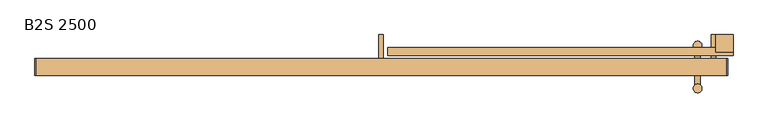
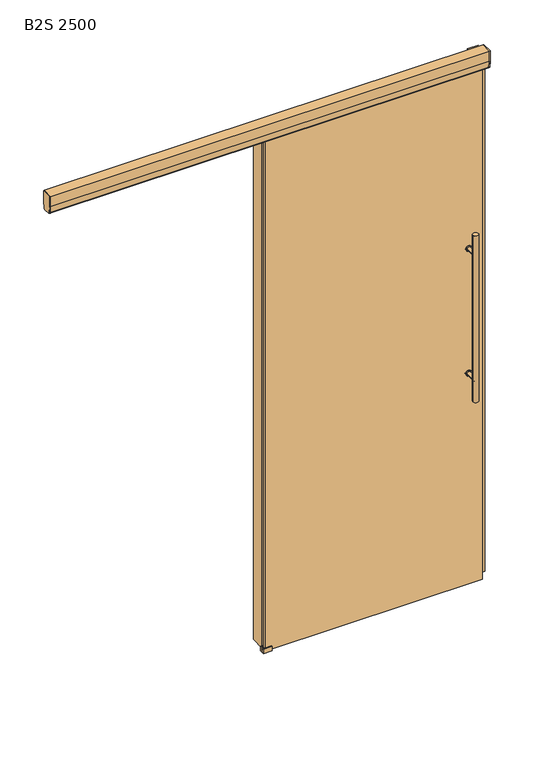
"""IFC4 building model written with IfcOpenShell, lengths in millimetres: door geometry, Mobiliário_Mobiliário de Escritório_Porta Simples de Correr - BS_Marelli : B2S 2500."""

from ifc_helpers import new_model, si_unit, point, frame, frame_2d, origin, origin_with_axes, place, context, project, spatial, polyline, circle_curve, trimmed, segment, composite_curve, outline, extrude, source, transform, mapped, element, save


def b2s_2500_bd1d7df3(model_context):
    return source(origin(), model_context, "Body", "SweptSolid", [
        extrude(outline(polyline([(823.1735443, -30.5), (835.8735443, -30.5), (835.8735443, -100.0), (823.1735443, -100.0), (823.1735443, -30.5)])), origin_with_axes(), (0.0, 0.0, 1.0), 2475.0),
        extrude(outline(polyline([(1798.5735443, -30.5), (1798.5735443, -100.0), (1785.8735443, -100.0), (1785.8735443, -30.5), (1798.5735443, -30.5)])), origin_with_axes(), (0.0, 0.0, 1.0), 2475.0),
        extrude(outline(polyline([(1808.5735443, -129.0), (818.5735443, -129.0), (818.5735443, -119.0), (1808.5735443, -119.0), (1808.5735443, -129.0)])), frame((0.0, 0.0, 4.5), z_axis=(0.0, 0.0, 1.0), x_axis=(1.0, 0.0, 0.0)), (0.0, 0.0, 1.0), 2495.5),
        extrude(outline(polyline([(1848.5735443, -30.5), (1848.5735443, -80.5), (1798.5735443, -80.5), (1798.5735443, -30.5), (1848.5735443, -30.5)])), origin_with_axes(), (0.0, 0.0, 1.0), 2500.0),
        extrude(outline(polyline([(-68.3, 2500.0), (-68.3, 2475.0), (-83.8, 2475.0), (-83.8, 2484.0), (-90.3, 2484.0), (-90.3, 2500.0), (-68.3, 2500.0)])), frame((848.5735443, 0.0, 0.0), z_axis=(1.0, 0.0, 0.0), x_axis=(0.0, 1.0, 0.0)), (0.0, 0.0, 1.0), 1000.0),
        extrude(outline(composite_curve([segment(polyline([(-148.0, 2550.0099534), (-100.0, 2550.0099534), (-100.0, 2500.0099534), (-103.3526316, 2470.2787193)]), True, "CONTINUOUS"), segment(trimmed(circle_curve(frame_2d((-109.9731658, 2471.7910743)), 6.7910743), [point((-103.3526316, 2470.2787193))], [point((-109.9731658, 2465.0))], False, "CARTESIAN"), True, "CONTINUOUS"), segment(polyline([(-109.9731658, 2465.0), (-138.0268342, 2465.0)]), True, "CONTINUOUS"), segment(trimmed(circle_curve(frame_2d((-138.0268342, 2471.7910743)), 6.7910743), [point((-138.0268342, 2465.0))], [point((-144.6473684, 2470.2787193))], False, "CARTESIAN"), True, "CONTINUOUS"), segment(polyline([(-144.6473684, 2470.2787193), (-148.0, 2500.0099534), (-148.0, 2550.0099534)]), True, "CONTINUOUS")], self_intersect=False)), frame((-172.4264557, 0.0, 0.0), z_axis=(1.0, 0.0, 0.0), x_axis=(0.0, 1.0, 0.0)), (0.0, 0.0, 1.0), 3.0),
        extrude(outline(composite_curve([segment(polyline([(-148.0, 2550.0), (-100.0, 2550.0), (-100.0, 2500.0), (-103.3526316, 2470.2687659)]), True, "CONTINUOUS"), segment(trimmed(circle_curve(frame_2d((-109.9731658, 2471.781121)), 6.7910743), [point((-103.3526316, 2470.2687659))], [point((-109.9731658, 2464.9900466))], False, "CARTESIAN"), True, "CONTINUOUS"), segment(polyline([(-109.9731658, 2464.9900466), (-138.0268342, 2464.9900466)]), True, "CONTINUOUS"), segment(trimmed(circle_curve(frame_2d((-138.0268342, 2471.781121)), 6.7910743), [point((-138.0268342, 2464.9900466))], [point((-144.6473684, 2470.2687659))], False, "CARTESIAN"), True, "CONTINUOUS"), segment(polyline([(-144.6473684, 2470.2687659), (-148.0, 2500.0), (-148.0, 2550.0)]), True, "CONTINUOUS")], self_intersect=False)), frame((1830.5735443, 0.0, 0.0), z_axis=(1.0, 0.0, 0.0), x_axis=(0.0, 1.0, 0.0)), (0.0, 0.0, 1.0), 3.0),
        extrude(outline(composite_curve([segment(polyline([(-148.0, 2550.0), (-100.0, 2550.0), (-100.0, 2500.0), (-103.3526316, 2470.2687659)]), True, "CONTINUOUS"), segment(trimmed(circle_curve(frame_2d((-109.9731658, 2471.781121)), 6.7910743), [point((-103.3526316, 2470.2687659))], [point((-109.9731658, 2464.9900466))], False, "CARTESIAN"), True, "CONTINUOUS"), segment(polyline([(-109.9731658, 2464.9900466), (-119.0, 2464.9900466), (-119.0, 2468.4900466), (-109.9731658, 2468.4900466)]), True, "CONTINUOUS"), segment(trimmed(circle_curve(frame_2d((-109.9731658, 2471.781121)), 3.2910743), [point((-109.9731658, 2468.4900466))], [point((-106.8045793, 2470.8916099))], True, "CARTESIAN"), True, "CONTINUOUS"), segment(polyline([(-106.8045793, 2470.8916099), (-103.5, 2500.1967147), (-103.5, 2546.5), (-144.5, 2546.5), (-144.5, 2500.1967147), (-141.1954207, 2470.8916099)]), True, "CONTINUOUS"), segment(trimmed(circle_curve(frame_2d((-138.0268342, 2471.781121)), 3.2910743), [point((-141.1954207, 2470.8916099))], [point((-138.0268342, 2468.4900466))], True, "CARTESIAN"), True, "CONTINUOUS"), segment(polyline([(-138.0268342, 2468.4900466), (-129.0, 2468.4900466), (-129.0, 2464.9900466), (-138.0268342, 2464.9900466)]), True, "CONTINUOUS"), segment(trimmed(circle_curve(frame_2d((-138.0268342, 2471.781121)), 6.7910743), [point((-138.0268342, 2464.9900466))], [point((-144.6473684, 2470.2687659))], False, "CARTESIAN"), True, "CONTINUOUS"), segment(polyline([(-144.6473684, 2470.2687659), (-148.0, 2500.0), (-148.0, 2550.0)]), True, "CONTINUOUS")], self_intersect=False)), frame((-169.4264557, 0.0, 0.0), z_axis=(1.0, 0.0, 0.0), x_axis=(0.0, 1.0, 0.0)), (0.0, 0.0, 1.0), 2000.0),
        extrude(outline(polyline([(-113.0, 22.0), (-113.0, 0.0), (-135.0, 0.0), (-135.0, 22.0), (-130.3, 22.0), (-129.5, 19.0), (-129.5, 4.5), (-118.5, 4.5), (-118.5, 19.0), (-117.7, 22.0), (-113.0, 22.0)])), frame((808.5735443, 0.0, 0.0), z_axis=(1.0, 0.0, 0.0), x_axis=(0.0, 1.0, 0.0)), (0.0, 0.0, 1.0), 40.0),
        extrude(outline(composite_curve([segment(trimmed(circle_curve(frame_2d((1020.0, 1745.6952124)), 12.7), [point((1020.0, 1732.9952124))], [point((1020.0, 1758.3952124))], False, "CARTESIAN"), True, "CONTINUOUS"), segment(trimmed(circle_curve(frame_2d((1020.0, 1745.6952124)), 12.7), [point((1020.0, 1758.3952124))], [point((1020.0, 1732.9952124))], False, "CARTESIAN"), True, "CONTINUOUS")], self_intersect=False)), frame((0.0, -133.0, 0.0), z_axis=(0.0, 1.0, 0.0), x_axis=(0.0, 0.0, 1.0)), (0.0, 0.0, 1.0), 18.0),
        extrude(outline(composite_curve([segment(trimmed(circle_curve(frame_2d((1620.0, 1745.6952124)), 12.7), [point((1620.0, 1732.9952124))], [point((1620.0, 1758.3952124))], False, "CARTESIAN"), True, "CONTINUOUS"), segment(trimmed(circle_curve(frame_2d((1620.0, 1745.6952124)), 12.7), [point((1620.0, 1758.3952124))], [point((1620.0, 1732.9952124))], False, "CARTESIAN"), True, "CONTINUOUS")], self_intersect=False)), frame((0.0, -133.0, 0.0), z_axis=(0.0, 1.0, 0.0), x_axis=(0.0, 0.0, 1.0)), (0.0, 0.0, 1.0), 18.0),
        extrude(outline(composite_curve([segment(trimmed(circle_curve(frame_2d((1020.0, 1745.6952124)), 8.0), [point((1020.0, 1737.6952124))], [point((1020.0, 1753.6952124))], False, "CARTESIAN"), True, "CONTINUOUS"), segment(trimmed(circle_curve(frame_2d((1020.0, 1745.6952124)), 8.0), [point((1020.0, 1753.6952124))], [point((1020.0, 1737.6952124))], False, "CARTESIAN"), True, "CONTINUOUS")], self_intersect=False)), frame((0.0, -186.2, 0.0), z_axis=(0.0, 1.0, 0.0), x_axis=(0.0, 0.0, 1.0)), (0.0, 0.0, 1.0), 124.4),
        extrude(outline(composite_curve([segment(trimmed(circle_curve(frame_2d((1620.0, 1745.6952124)), 8.0), [point((1620.0, 1737.6952124))], [point((1620.0, 1753.6952124))], False, "CARTESIAN"), True, "CONTINUOUS"), segment(trimmed(circle_curve(frame_2d((1620.0, 1745.6952124)), 8.0), [point((1620.0, 1753.6952124))], [point((1620.0, 1737.6952124))], False, "CARTESIAN"), True, "CONTINUOUS")], self_intersect=False)), frame((0.0, -186.2, 0.0), z_axis=(0.0, 1.0, 0.0), x_axis=(0.0, 0.0, 1.0)), (0.0, 0.0, 1.0), 124.4),
        extrude(outline(composite_curve([segment(trimmed(circle_curve(frame_2d((1745.6952124, -61.8)), 12.7), [point((1758.3952124, -61.8))], [point((1732.9952124, -61.8))], False, "CARTESIAN"), True, "CONTINUOUS"), segment(trimmed(circle_curve(frame_2d((1745.6952124, -61.8)), 12.7), [point((1732.9952124, -61.8))], [point((1758.3952124, -61.8))], False, "CARTESIAN"), True, "CONTINUOUS")], self_intersect=False)), frame((0.0, 0.0, 920.0), z_axis=(0.0, 0.0, 1.0), x_axis=(1.0, 0.0, 0.0)), (0.0, 0.0, 1.0), 800.0),
        extrude(outline(composite_curve([segment(trimmed(circle_curve(frame_2d((1745.6952124, -186.2)), 12.7), [point((1758.3952124, -186.2))], [point((1732.9952124, -186.2))], False, "CARTESIAN"), True, "CONTINUOUS"), segment(trimmed(circle_curve(frame_2d((1745.6952124, -186.2)), 12.7), [point((1732.9952124, -186.2))], [point((1758.3952124, -186.2))], False, "CARTESIAN"), True, "CONTINUOUS")], self_intersect=False)), frame((0.0, 0.0, 920.0), z_axis=(0.0, 0.0, 1.0), x_axis=(1.0, 0.0, 0.0)), (0.0, 0.0, 1.0), 800.0),
    ])


if __name__ == "__main__":
    model = new_model("IFC4")
    model_context = context("Model", 3, world=origin())
    ifc_project = project(units=[si_unit("LENGTHUNIT", "METRE", prefix="MILLI")], contexts=[model_context])
    site = spatial("IfcSite", under=ifc_project)
    building = spatial("IfcBuilding", under=site)
    placement = place(None, origin())
    b2s_2500_shape = b2s_2500_bd1d7df3(model_context)
    element("IfcDoor", 1, ObjectType="Mobiliário_Mobiliário de Escritório_Porta Simples de Correr - BS_Marelli : B2S 2500", at=placement, inside=building, context=model_context, shape_type="MappedRepresentation", body=[
        mapped(b2s_2500_shape, transform((0.0, 0.0, 0.0), x_axis=(1.0, 0.0, 0.0), y_axis=(0.0, 1.0, 0.0), z_axis=(0.0, 0.0, 1.0))),
    ])
    save(model, "model.ifc")
